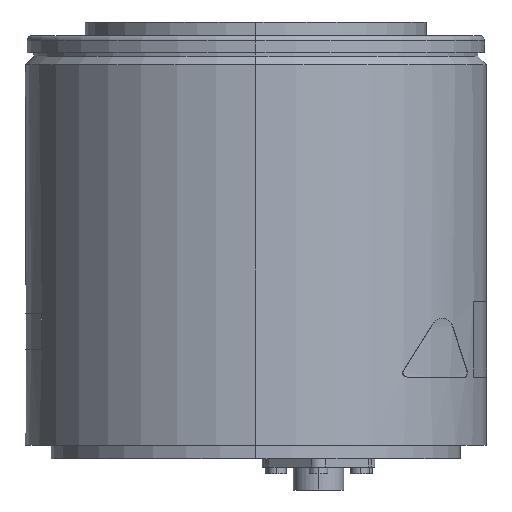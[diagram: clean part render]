
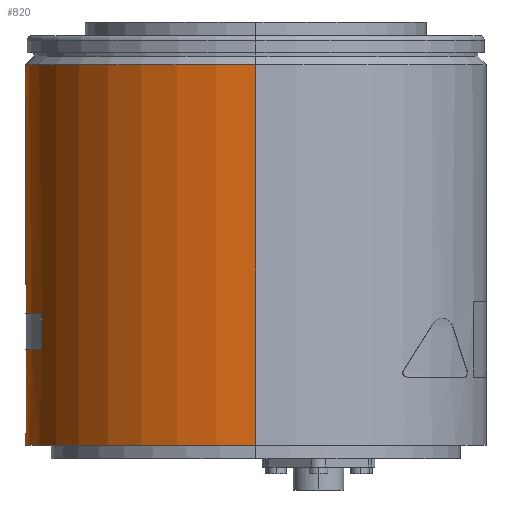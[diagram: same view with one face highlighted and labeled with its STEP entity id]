
A CAD part, left-side view. The second image highlights one B-rep face of the part: STEP entity #820.
In plain terms, the highlighted cylindrical face has radius 67.5 mm (diameter 135 mm), a partial arc.
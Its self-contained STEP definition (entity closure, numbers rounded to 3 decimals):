
#228 = VERTEX_POINT ( 'NONE', #9587 ) ;
#820 = ADVANCED_FACE ( 'NONE', ( #5176, #5181 ), #5173, .T. ) ;
#1000 = DIRECTION ( 'NONE',  ( -1., 0., 0. ) ) ;
#1001 = DIRECTION ( 'NONE',  ( 0., 0., -1. ) ) ;
#1002 = CARTESIAN_POINT ( 'NONE',  ( 0., 0., 0. ) ) ;
#1726 = CARTESIAN_POINT ( 'NONE',  ( -67.5, 0., 4. ) ) ;
#1733 = CARTESIAN_POINT ( 'NONE',  ( -67.5, 0., 115.5 ) ) ;
#1739 = CARTESIAN_POINT ( 'NONE',  ( 67.5, 0., 115.5 ) ) ;
#1742 = CARTESIAN_POINT ( 'NONE',  ( 25., 62.7, 42.5 ) ) ;
#1763 = CARTESIAN_POINT ( 'NONE',  ( -25., 62.7, 32. ) ) ;
#2476 = AXIS2_PLACEMENT_3D ( 'NONE', #3292, #3301, #3302 ) ;
#2479 = AXIS2_PLACEMENT_3D ( 'NONE', #3288, #3296, #3297 ) ;
#2481 = AXIS2_PLACEMENT_3D ( 'NONE', #3295, #3307, #3308 ) ;
#2485 = AXIS2_PLACEMENT_3D ( 'NONE', #3281, #3289, #3290 ) ;
#2793 = LINE ( 'NONE', #3303, #2802 ) ;
#2797 = LINE ( 'NONE', #3298, #2800 ) ;
#2799 = CIRCLE ( 'NONE', #2485, 67.5 ) ;
#2800 = VECTOR ( 'NONE', #3299, 1000. ) ;
#2802 = VECTOR ( 'NONE', #3304, 1000. ) ;
#2803 = CIRCLE ( 'NONE', #2479, 67.5 ) ;
#2805 = CIRCLE ( 'NONE', #2476, 67.5 ) ;
#2810 = CIRCLE ( 'NONE', #2481, 67.5 ) ;
#2814 = LINE ( 'NONE', #3315, #2815 ) ;
#2815 = VECTOR ( 'NONE', #3316, 1000. ) ;
#2821 = LINE ( 'NONE', #3324, #2822 ) ;
#2822 = VECTOR ( 'NONE', #3325, 1000. ) ;
#3272 = CARTESIAN_POINT ( 'NONE',  ( 67.5, 0., 4. ) ) ;
#3281 = CARTESIAN_POINT ( 'NONE',  ( 0., 0., 4. ) ) ;
#3288 = CARTESIAN_POINT ( 'NONE',  ( 0., 0., 42.5 ) ) ;
#3289 = DIRECTION ( 'NONE',  ( 0., 0., -1. ) ) ;
#3290 = DIRECTION ( 'NONE',  ( -1., 0., 0. ) ) ;
#3292 = CARTESIAN_POINT ( 'NONE',  ( 0., 0., 32. ) ) ;
#3295 = CARTESIAN_POINT ( 'NONE',  ( 0., 0., 115.5 ) ) ;
#3296 = DIRECTION ( 'NONE',  ( 0., 0., -1. ) ) ;
#3297 = DIRECTION ( 'NONE',  ( 1., 0., 0. ) ) ;
#3298 = CARTESIAN_POINT ( 'NONE',  ( -67.5, 0., 0. ) ) ;
#3299 = DIRECTION ( 'NONE',  ( 0., 0., -1. ) ) ;
#3301 = DIRECTION ( 'NONE',  ( 0., 0., 1. ) ) ;
#3302 = DIRECTION ( 'NONE',  ( -1., 0., 0. ) ) ;
#3303 = CARTESIAN_POINT ( 'NONE',  ( -25., 62.7, 0. ) ) ;
#3304 = DIRECTION ( 'NONE',  ( 0., 0., 1. ) ) ;
#3307 = DIRECTION ( 'NONE',  ( 0., 0., -1. ) ) ;
#3308 = DIRECTION ( 'NONE',  ( -1., 0., 0. ) ) ;
#3315 = CARTESIAN_POINT ( 'NONE',  ( 67.5, 0., 0. ) ) ;
#3316 = DIRECTION ( 'NONE',  ( 0., 0., -1. ) ) ;
#3324 = CARTESIAN_POINT ( 'NONE',  ( 25., 62.7, 0. ) ) ;
#3325 = DIRECTION ( 'NONE',  ( 0., 0., -1. ) ) ;
#5049 = VERTEX_POINT ( 'NONE', #7751 ) ;
#5130 = VERTEX_POINT ( 'NONE', #1726 ) ;
#5137 = VERTEX_POINT ( 'NONE', #1733 ) ;
#5143 = VERTEX_POINT ( 'NONE', #1739 ) ;
#5146 = VERTEX_POINT ( 'NONE', #1742 ) ;
#5173 = CYLINDRICAL_SURFACE ( 'NONE', #8183, 67.5 ) ;
#5176 = FACE_BOUND ( 'NONE', #8386, .T. ) ;
#5181 = FACE_OUTER_BOUND ( 'NONE', #8389, .T. ) ;
#6257 = VERTEX_POINT ( 'NONE', #1763 ) ;
#7751 = CARTESIAN_POINT ( 'NONE',  ( 25., 62.7, 32. ) ) ;
#8183 = AXIS2_PLACEMENT_3D ( 'NONE', #1002, #1001, #1000 ) ;
#8386 = EDGE_LOOP ( 'NONE', ( #9464, #9465, #9466, #9467 ) ) ;
#8389 = EDGE_LOOP ( 'NONE', ( #9468, #9469, #9470, #9471 ) ) ;
#8708 = VERTEX_POINT ( 'NONE', #3272 ) ;
#8717 = EDGE_CURVE ( 'NONE', #5130, #8708, #2799, .T. ) ;
#8719 = EDGE_CURVE ( 'NONE', #228, #5146, #2803, .T. ) ;
#8720 = EDGE_CURVE ( 'NONE', #5137, #5130, #2797, .T. ) ;
#8721 = EDGE_CURVE ( 'NONE', #5049, #6257, #2805, .T. ) ;
#8722 = EDGE_CURVE ( 'NONE', #6257, #228, #2793, .T. ) ;
#8724 = EDGE_CURVE ( 'NONE', #5137, #5143, #2810, .T. ) ;
#8728 = EDGE_CURVE ( 'NONE', #5143, #8708, #2814, .T. ) ;
#8732 = EDGE_CURVE ( 'NONE', #5146, #5049, #2821, .T. ) ;
#9464 = ORIENTED_EDGE ( 'NONE', *, *, #8722, .F. ) ;
#9465 = ORIENTED_EDGE ( 'NONE', *, *, #8721, .F. ) ;
#9466 = ORIENTED_EDGE ( 'NONE', *, *, #8732, .F. ) ;
#9467 = ORIENTED_EDGE ( 'NONE', *, *, #8719, .F. ) ;
#9468 = ORIENTED_EDGE ( 'NONE', *, *, #8724, .T. ) ;
#9469 = ORIENTED_EDGE ( 'NONE', *, *, #8728, .T. ) ;
#9470 = ORIENTED_EDGE ( 'NONE', *, *, #8717, .F. ) ;
#9471 = ORIENTED_EDGE ( 'NONE', *, *, #8720, .F. ) ;
#9587 = CARTESIAN_POINT ( 'NONE',  ( -25., 62.7, 42.5 ) ) ;
